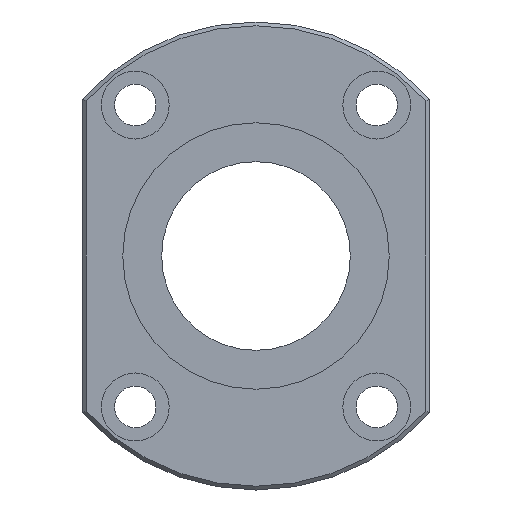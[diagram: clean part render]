
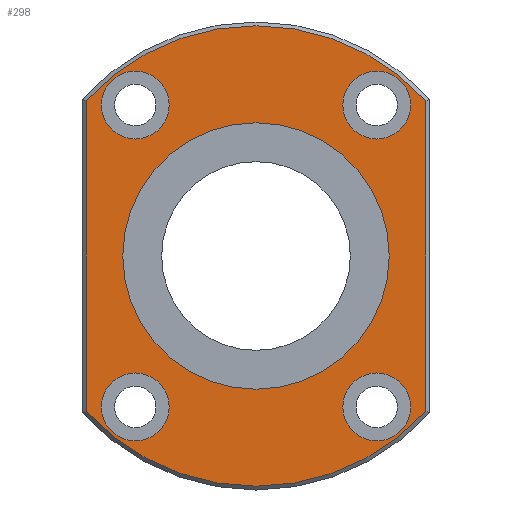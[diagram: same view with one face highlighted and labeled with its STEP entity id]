
A CAD part, left-side view. The second image highlights one B-rep face of the part: STEP entity #298.
In plain terms, the highlighted planar face has unit normal (-1, 0, 0).
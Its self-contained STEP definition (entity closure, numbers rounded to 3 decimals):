
#59=CARTESIAN_POINT('',(0.0,22.5,-20.591));
#60=VERTEX_POINT('',#59);
#68=CARTESIAN_POINT('',(0.0,22.5,20.591));
#69=VERTEX_POINT('',#68);
#70=CARTESIAN_POINT('',(0.0,22.5,-20.591));
#71=DIRECTION('',(0.0,0.0,1.0));
#72=VECTOR('',#71,41.183);
#73=LINE('',#70,#72);
#74=EDGE_CURVE('',#60,#69,#73,.T.);
#101=CARTESIAN_POINT('',(0.0,-22.5,20.591));
#102=VERTEX_POINT('',#101);
#103=CARTESIAN_POINT('',(0.0,0.0,0.0));
#104=DIRECTION('',(1.0,0.0,0.0));
#105=DIRECTION('',(0.0,0.0,1.0));
#106=AXIS2_PLACEMENT_3D('',#103,#104,#105);
#107=CIRCLE('',#106,30.5);
#108=EDGE_CURVE('',#69,#102,#107,.T.);
#134=CARTESIAN_POINT('',(0.0,-22.5,-20.591));
#135=VERTEX_POINT('',#134);
#136=CARTESIAN_POINT('',(0.0,-22.5,20.591));
#137=DIRECTION('',(0.0,0.0,-1.0));
#138=VECTOR('',#137,41.183);
#139=LINE('',#136,#138);
#140=EDGE_CURVE('',#102,#135,#139,.T.);
#165=CARTESIAN_POINT('',(0.0,0.0,0.0));
#166=DIRECTION('',(1.0,0.0,0.0));
#167=DIRECTION('',(0.0,0.0,-1.0));
#168=AXIS2_PLACEMENT_3D('',#165,#166,#167);
#169=CIRCLE('',#168,30.5);
#170=EDGE_CURVE('',#135,#60,#169,.T.);
#232=CARTESIAN_POINT('',(0.0,0.0,18.825));
#233=DIRECTION('',(-1.0,0.0,0.0));
#234=DIRECTION('',(0.0,0.0,1.0));
#235=AXIS2_PLACEMENT_3D('',#232,#233,#234);
#236=PLANE('',#235);
#237=ORIENTED_EDGE('',*,*,#74,.F.);
#238=ORIENTED_EDGE('',*,*,#170,.F.);
#239=ORIENTED_EDGE('',*,*,#140,.F.);
#240=ORIENTED_EDGE('',*,*,#108,.F.);
#241=EDGE_LOOP('',(#237,#238,#239,#240));
#242=FACE_OUTER_BOUND('',#241,.T.);
#243=CARTESIAN_POINT('',(0.0,0.0,17.65));
#244=VERTEX_POINT('',#243);
#245=CARTESIAN_POINT('',(0.0,0.0,0.0));
#246=DIRECTION('',(-1.0,0.0,0.0));
#247=DIRECTION('',(0.0,0.0,1.0));
#248=AXIS2_PLACEMENT_3D('',#245,#246,#247);
#249=CIRCLE('',#248,17.65);
#250=EDGE_CURVE('',#244,#244,#249,.T.);
#251=ORIENTED_EDGE('',*,*,#250,.F.);
#252=EDGE_LOOP('',(#251));
#253=FACE_BOUND('',#252,.T.);
#254=CARTESIAN_POINT('',(0.0,-11.5,-20.));
#255=VERTEX_POINT('',#254);
#256=CARTESIAN_POINT('',(0.0,-16.,-20.));
#257=DIRECTION('',(1.0,0.0,0.0));
#258=DIRECTION('',(0.0,1.0,0.0));
#259=AXIS2_PLACEMENT_3D('',#256,#257,#258);
#260=CIRCLE('',#259,4.5);
#261=EDGE_CURVE('',#255,#255,#260,.T.);
#262=ORIENTED_EDGE('',*,*,#261,.T.);
#263=EDGE_LOOP('',(#262));
#264=FACE_BOUND('',#263,.T.);
#265=CARTESIAN_POINT('',(0.0,-11.5,20.));
#266=VERTEX_POINT('',#265);
#267=CARTESIAN_POINT('',(0.0,-16.,20.));
#268=DIRECTION('',(1.0,0.0,0.0));
#269=DIRECTION('',(0.0,1.0,0.0));
#270=AXIS2_PLACEMENT_3D('',#267,#268,#269);
#271=CIRCLE('',#270,4.5);
#272=EDGE_CURVE('',#266,#266,#271,.T.);
#273=ORIENTED_EDGE('',*,*,#272,.T.);
#274=EDGE_LOOP('',(#273));
#275=FACE_BOUND('',#274,.T.);
#276=CARTESIAN_POINT('',(0.0,20.5,-20.));
#277=VERTEX_POINT('',#276);
#278=CARTESIAN_POINT('',(0.0,16.,-20.));
#279=DIRECTION('',(1.0,0.0,0.0));
#280=DIRECTION('',(0.0,1.0,0.0));
#281=AXIS2_PLACEMENT_3D('',#278,#279,#280);
#282=CIRCLE('',#281,4.5);
#283=EDGE_CURVE('',#277,#277,#282,.T.);
#284=ORIENTED_EDGE('',*,*,#283,.T.);
#285=EDGE_LOOP('',(#284));
#286=FACE_BOUND('',#285,.T.);
#287=CARTESIAN_POINT('',(0.0,20.5,20.));
#288=VERTEX_POINT('',#287);
#289=CARTESIAN_POINT('',(0.0,16.,20.));
#290=DIRECTION('',(1.0,0.0,0.0));
#291=DIRECTION('',(0.0,1.0,0.0));
#292=AXIS2_PLACEMENT_3D('',#289,#290,#291);
#293=CIRCLE('',#292,4.5);
#294=EDGE_CURVE('',#288,#288,#293,.T.);
#295=ORIENTED_EDGE('',*,*,#294,.T.);
#296=EDGE_LOOP('',(#295));
#297=FACE_BOUND('',#296,.T.);
#298=ADVANCED_FACE('',(#242,#253,#264,#275,#286,#297),#236,.T.);
